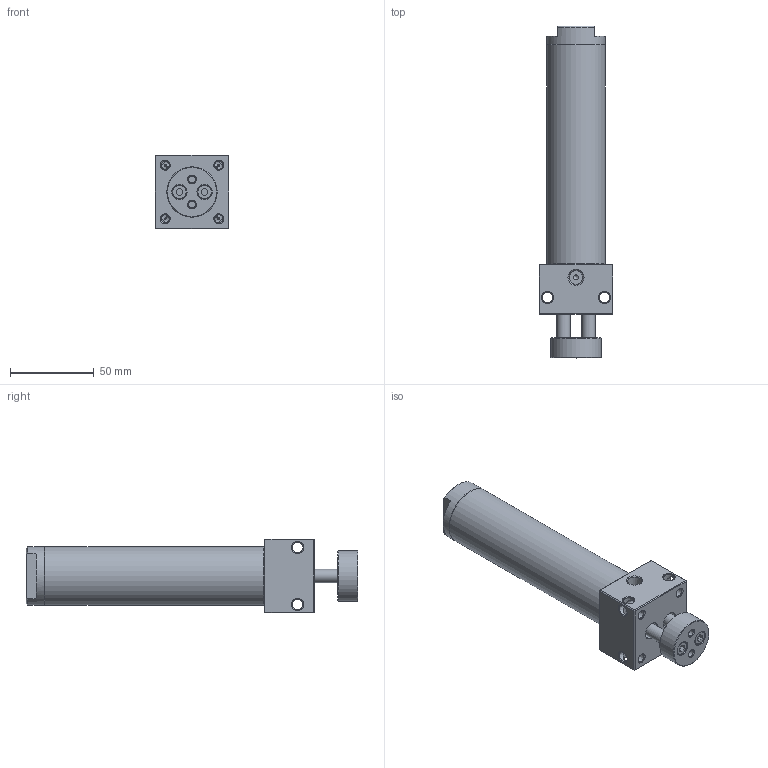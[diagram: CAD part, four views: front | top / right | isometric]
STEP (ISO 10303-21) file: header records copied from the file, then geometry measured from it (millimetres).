
FILE_DESCRIPTION((''),'2;1');
FILE_NAME('I:\3D電子目錄\氣缸\DBT\DBT\DBT30\DBT30x75.stp','2007-10-08T08:58:36',('Administrator'),(''),'Autodesk Inventor 2008','Autodesk Inventor 2008','');
FILE_SCHEMA(('AUTOMOTIVE_DESIGN { 1 0 10303 214 1 1 1 1 }'));
Length unit declared in the file: millimetre
Products named in the file (1): DBT30x75
Bounding box: 44 x 198 x 44 mm (x, y, z)
Volume: 113986.2 mm3; surface area: 53782.1 mm2
Topology: 5 solids, 5 shells, 167 faces, 388 edges, 234 vertices
Faces by surface type: plane 56, bspline 53, cone 37, cylinder 21
Full cylindrical faces by diameter (mm): 4.3 x1, 5 x1, 8 x3, 8.5 x1, 10 x1, 11 x1, 18 x1, 28.8 x2, 30 x2, 30.8 x2, 32 x2, 32.2 x2, 35 x2
Entity records: 5064 total; most frequent: CARTESIAN_POINT 1888, DIRECTION 604, ORIENTED_EDGE 538, EDGE_LOOP 298, EDGE_CURVE 269, AXIS2_PLACEMENT_3D 256, VERTEX_POINT 207, FACE_OUTER_BOUND 167
